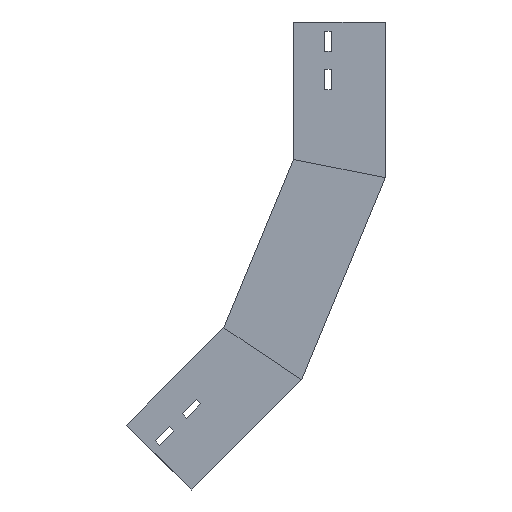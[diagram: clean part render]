
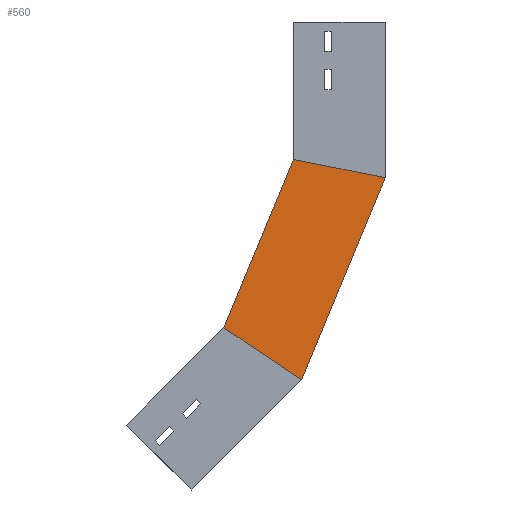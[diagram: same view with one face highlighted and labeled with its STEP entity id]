
A CAD part, left-side view. The second image highlights one B-rep face of the part: STEP entity #560.
In plain terms, the highlighted planar face has unit normal (-1, 0, 0) as drawn and (1, 0, 0) by its records, which use the part's own axes.
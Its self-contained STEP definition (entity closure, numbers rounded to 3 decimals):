
#7 = VERTEX_POINT ( 'NONE', #1374 ) ;
#13 = LINE ( 'NONE', #36, #222 ) ;
#35 = VERTEX_POINT ( 'NONE', #1142 ) ;
#36 = CARTESIAN_POINT ( 'NONE',  ( 0., 32.452, -163.145 ) ) ;
#102 = LINE ( 'NONE', #578, #897 ) ;
#131 = EDGE_CURVE ( 'NONE', #35, #7, #13, .T. ) ;
#133 = DIRECTION ( 'NONE',  ( 0., 0.383, -0.924 ) ) ;
#222 = VECTOR ( 'NONE', #1386, 1000. ) ;
#272 = VECTOR ( 'NONE', #133, 1000. ) ;
#306 = DIRECTION ( 'NONE',  ( -1., 0., 0. ) ) ;
#313 = CARTESIAN_POINT ( 'NONE',  ( 0., 91.117, -389.576 ) ) ;
#330 = VECTOR ( 'NONE', #1392, 1000. ) ;
#346 = CARTESIAN_POINT ( 'NONE',  ( 0., 129.74, -363.769 ) ) ;
#355 = VERTEX_POINT ( 'NONE', #313 ) ;
#460 = ORIENTED_EDGE ( 'NONE', *, *, #1091, .F. ) ;
#542 = FACE_OUTER_BOUND ( 'NONE', #1251, .T. ) ;
#560 = ADVANCED_FACE ( 'NONE', ( #542 ), #661, .F. ) ;
#578 = CARTESIAN_POINT ( 'NONE',  ( 0., 92.388, -131.332 ) ) ;
#661 = PLANE ( 'NONE',  #1116 ) ;
#773 = VERTEX_POINT ( 'NONE', #1100 ) ;
#864 = ORIENTED_EDGE ( 'NONE', *, *, #1059, .T. ) ;
#894 = CARTESIAN_POINT ( 'NONE',  ( 0., 0., -169.6 ) ) ;
#897 = VECTOR ( 'NONE', #924, 1000. ) ;
#924 = DIRECTION ( 'NONE',  ( 0., 0.383, -0.924 ) ) ;
#934 = LINE ( 'NONE', #346, #330 ) ;
#1036 = ORIENTED_EDGE ( 'NONE', *, *, #131, .T. ) ;
#1057 = LINE ( 'NONE', #1291, #272 ) ;
#1059 = EDGE_CURVE ( 'NONE', #7, #355, #1057, .T. ) ;
#1091 = EDGE_CURVE ( 'NONE', #35, #773, #102, .T. ) ;
#1100 = CARTESIAN_POINT ( 'NONE',  ( 0., 175.893, -332.93 ) ) ;
#1110 = DIRECTION ( 'NONE',  ( 0., 0., 1. ) ) ;
#1116 = AXIS2_PLACEMENT_3D ( 'NONE', #894, #306, #1110 ) ;
#1142 = CARTESIAN_POINT ( 'NONE',  ( 0., 100., -149.709 ) ) ;
#1251 = EDGE_LOOP ( 'NONE', ( #460, #1036, #864, #1387 ) ) ;
#1291 = CARTESIAN_POINT ( 'NONE',  ( 0., 0., -169.6 ) ) ;
#1374 = CARTESIAN_POINT ( 'NONE',  ( 0., 0., -169.6 ) ) ;
#1386 = DIRECTION ( 'NONE',  ( 0., -0.981, -0.195 ) ) ;
#1387 = ORIENTED_EDGE ( 'NONE', *, *, #1433, .F. ) ;
#1392 = DIRECTION ( 'NONE',  ( 0., -0.831, -0.556 ) ) ;
#1433 = EDGE_CURVE ( 'NONE', #773, #355, #934, .T. ) ;
